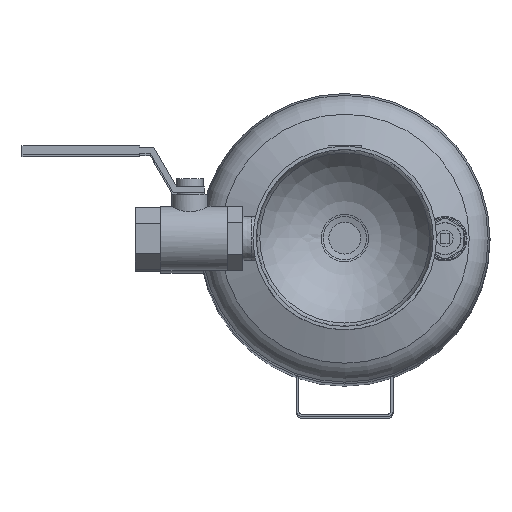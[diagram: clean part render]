
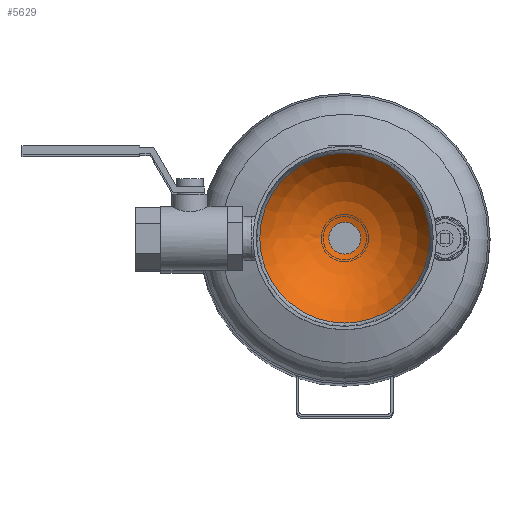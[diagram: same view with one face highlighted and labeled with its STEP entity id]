
A CAD part, top view. The second image highlights one B-rep face of the part: STEP entity #5629.
In plain terms, the highlighted spherical face has radius 57.667 mm.
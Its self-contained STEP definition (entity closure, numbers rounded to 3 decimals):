
#17=SPHERICAL_SURFACE('',#6237,57.667);
#383=CIRCLE('',#6235,50.882);
#384=CIRCLE('',#6236,50.882);
#385=CIRCLE('',#6238,57.667);
#386=CIRCLE('',#6239,9.5);
#387=CIRCLE('',#6240,9.5);
#776=FACE_OUTER_BOUND('',#1141,.T.);
#1141=EDGE_LOOP('',(#4946,#4947,#4948,#4949,#4950,#4951));
#2627=VERTEX_POINT('',#9766);
#2628=VERTEX_POINT('',#9768);
#2629=VERTEX_POINT('',#9772);
#2630=VERTEX_POINT('',#9774);
#3412=EDGE_CURVE('',#2628,#2627,#383,.T.);
#3413=EDGE_CURVE('',#2627,#2628,#384,.T.);
#3414=EDGE_CURVE('',#2627,#2629,#385,.T.);
#3415=EDGE_CURVE('',#2630,#2629,#386,.T.);
#3416=EDGE_CURVE('',#2629,#2630,#387,.T.);
#4946=ORIENTED_EDGE('',*,*,#3412,.T.);
#4947=ORIENTED_EDGE('',*,*,#3414,.T.);
#4948=ORIENTED_EDGE('',*,*,#3415,.F.);
#4949=ORIENTED_EDGE('',*,*,#3416,.F.);
#4950=ORIENTED_EDGE('',*,*,#3414,.F.);
#4951=ORIENTED_EDGE('',*,*,#3413,.T.);
#5629=ADVANCED_FACE('',(#776),#17,.F.);
#6235=AXIS2_PLACEMENT_3D('',#9769,#7890,#7891);
#6236=AXIS2_PLACEMENT_3D('',#9770,#7892,#7893);
#6237=AXIS2_PLACEMENT_3D('',#9771,#7894,#7895);
#6238=AXIS2_PLACEMENT_3D('',#9773,#7896,#7897);
#6239=AXIS2_PLACEMENT_3D('',#9775,#7898,#7899);
#6240=AXIS2_PLACEMENT_3D('',#9776,#7900,#7901);
#7890=DIRECTION('center_axis',(0.,0.,1.));
#7891=DIRECTION('ref_axis',(1.,0.,0.));
#7892=DIRECTION('center_axis',(0.,0.,1.));
#7893=DIRECTION('ref_axis',(1.,0.,0.));
#7894=DIRECTION('center_axis',(0.,0.,1.));
#7895=DIRECTION('ref_axis',(1.,0.,0.));
#7896=DIRECTION('center_axis',(0.,-1.,0.));
#7897=DIRECTION('ref_axis',(-1.,0.,0.));
#7898=DIRECTION('center_axis',(0.,0.,1.));
#7899=DIRECTION('ref_axis',(1.,0.,0.));
#7900=DIRECTION('center_axis',(0.,0.,1.));
#7901=DIRECTION('ref_axis',(1.,0.,0.));
#9766=CARTESIAN_POINT('',(-50.882,0.,1184.992));
#9768=CARTESIAN_POINT('',(50.882,0.,1184.992));
#9769=CARTESIAN_POINT('Origin',(0.,0.,1184.992));
#9770=CARTESIAN_POINT('Origin',(0.,0.,1184.992));
#9771=CARTESIAN_POINT('Origin',(0.,0.,1212.129));
#9772=CARTESIAN_POINT('',(-9.5,0.,1155.251));
#9773=CARTESIAN_POINT('Origin',(0.,0.,1212.129));
#9774=CARTESIAN_POINT('',(9.5,0.,1155.251));
#9775=CARTESIAN_POINT('Origin',(0.,0.,1155.251));
#9776=CARTESIAN_POINT('Origin',(0.,0.,1155.251));
